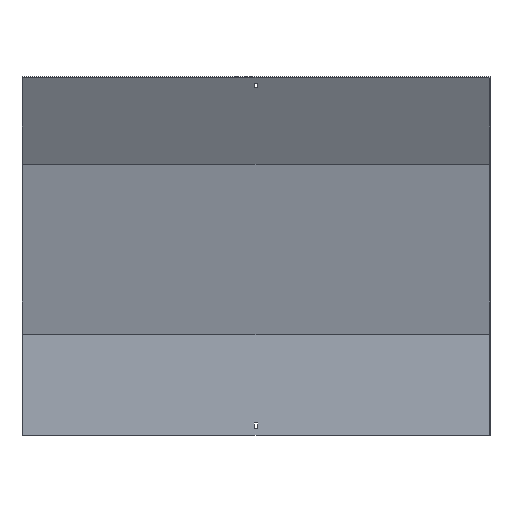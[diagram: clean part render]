
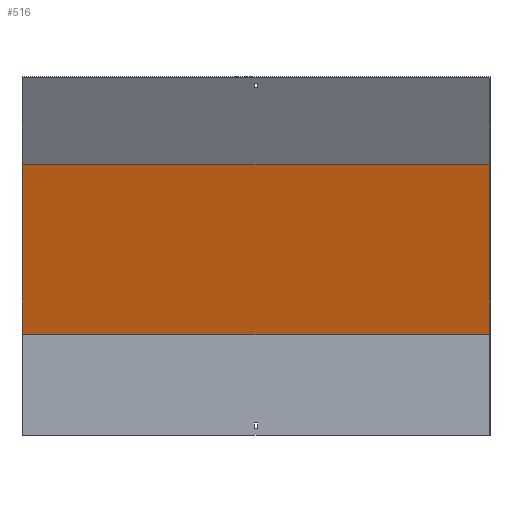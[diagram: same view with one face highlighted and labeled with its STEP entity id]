
A CAD part, front view. The second image highlights one B-rep face of the part: STEP entity #516.
In plain terms, the highlighted planar face has unit normal (0, -0.966, -0.259).
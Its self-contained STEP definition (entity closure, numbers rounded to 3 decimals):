
#8 = PLANE ( 'NONE',  #644 ) ;
#42 = CARTESIAN_POINT ( 'NONE',  ( 400., 18.5, 172.436 ) ) ;
#52 = VERTEX_POINT ( 'NONE', #291 ) ;
#63 = VECTOR ( 'NONE', #654, 1000. ) ;
#68 = CARTESIAN_POINT ( 'NONE',  ( 401.5, 17.87, 174.788 ) ) ;
#84 = EDGE_CURVE ( 'NONE', #304, #52, #717, .T. ) ;
#118 = VECTOR ( 'NONE', #637, 1000. ) ;
#131 = CARTESIAN_POINT ( 'NONE',  ( -400., 60.37, 16.176 ) ) ;
#207 = ORIENTED_EDGE ( 'NONE', *, *, #84, .T. ) ;
#228 = CARTESIAN_POINT ( 'NONE',  ( -400., 18.5, 172.436 ) ) ;
#239 = ORIENTED_EDGE ( 'NONE', *, *, #292, .F. ) ;
#246 = CARTESIAN_POINT ( 'NONE',  ( 401.5, 18.5, 172.436 ) ) ;
#291 = CARTESIAN_POINT ( 'NONE',  ( 400., -59.889, 464.987 ) ) ;
#292 = EDGE_CURVE ( 'NONE', #632, #716, #773, .T. ) ;
#304 = VERTEX_POINT ( 'NONE', #42 ) ;
#342 = DIRECTION ( 'NONE',  ( 0., -0.966, -0.259 ) ) ;
#382 = VECTOR ( 'NONE', #504, 1000. ) ;
#390 = CARTESIAN_POINT ( 'NONE',  ( 400., 60.37, 16.176 ) ) ;
#394 = LINE ( 'NONE', #722, #415 ) ;
#415 = VECTOR ( 'NONE', #606, 1000. ) ;
#421 = EDGE_CURVE ( 'NONE', #304, #632, #838, .T. ) ;
#504 = DIRECTION ( 'NONE',  ( -1., 0., 0. ) ) ;
#516 = ADVANCED_FACE ( 'NONE', ( #526 ), #8, .T. ) ;
#518 = CARTESIAN_POINT ( 'NONE',  ( -400., -59.889, 464.987 ) ) ;
#523 = EDGE_CURVE ( 'NONE', #52, #716, #394, .T. ) ;
#526 = FACE_OUTER_BOUND ( 'NONE', #554, .T. ) ;
#554 = EDGE_LOOP ( 'NONE', ( #239, #568, #207, #836 ) ) ;
#568 = ORIENTED_EDGE ( 'NONE', *, *, #421, .F. ) ;
#606 = DIRECTION ( 'NONE',  ( -1., 0., 0. ) ) ;
#632 = VERTEX_POINT ( 'NONE', #228 ) ;
#637 = DIRECTION ( 'NONE',  ( 0., -0.259, 0.966 ) ) ;
#644 = AXIS2_PLACEMENT_3D ( 'NONE', #68, #342, #799 ) ;
#654 = DIRECTION ( 'NONE',  ( 0., -0.259, 0.966 ) ) ;
#716 = VERTEX_POINT ( 'NONE', #518 ) ;
#717 = LINE ( 'NONE', #390, #63 ) ;
#722 = CARTESIAN_POINT ( 'NONE',  ( 401.5, -59.889, 464.987 ) ) ;
#773 = LINE ( 'NONE', #131, #118 ) ;
#799 = DIRECTION ( 'NONE',  ( 0., 0.259, -0.966 ) ) ;
#836 = ORIENTED_EDGE ( 'NONE', *, *, #523, .T. ) ;
#838 = LINE ( 'NONE', #246, #382 ) ;
